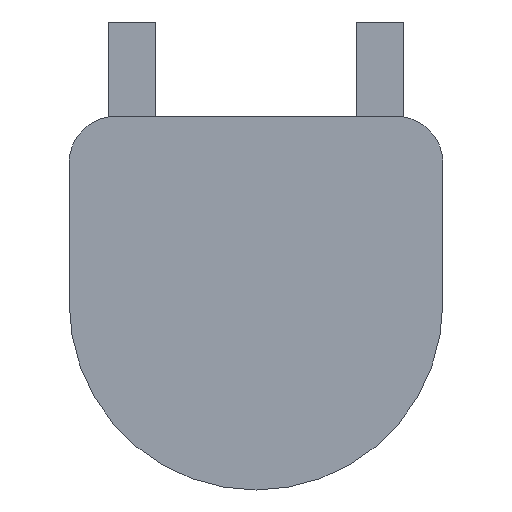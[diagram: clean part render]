
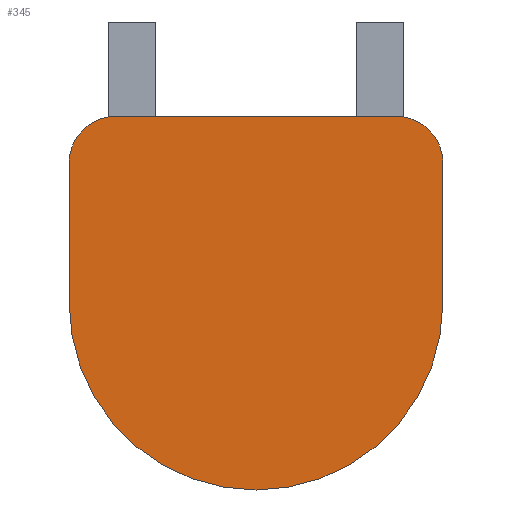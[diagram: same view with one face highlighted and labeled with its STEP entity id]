
A CAD part, front view. The second image highlights one B-rep face of the part: STEP entity #345.
In plain terms, the highlighted planar face has unit normal (0, -1, 0).
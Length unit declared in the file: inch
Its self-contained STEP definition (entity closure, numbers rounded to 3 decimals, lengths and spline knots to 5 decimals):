
#11 = AXIS2_PLACEMENT_3D ( 'NONE', #409, #199, #360 ) ;
#14 = ORIENTED_EDGE ( 'NONE', *, *, #575, .F. ) ;
#21 = CARTESIAN_POINT ( 'NONE',  ( 0., 0., 1. ) ) ;
#36 = CIRCLE ( 'NONE', #84, 0.25 ) ;
#43 = EDGE_CURVE ( 'NONE', #553, #188, #36, .T. ) ;
#44 = ORIENTED_EDGE ( 'NONE', *, *, #209, .F. ) ;
#45 = VERTEX_POINT ( 'NONE', #540 ) ;
#49 = VERTEX_POINT ( 'NONE', #408 ) ;
#68 = LINE ( 'NONE', #21, #488 ) ;
#73 = LINE ( 'NONE', #272, #388 ) ;
#76 = DIRECTION ( 'NONE',  ( 0., 0., 1. ) ) ;
#84 = AXIS2_PLACEMENT_3D ( 'NONE', #629, #241, #190 ) ;
#94 = CARTESIAN_POINT ( 'NONE',  ( -1., 0., 0.75 ) ) ;
#98 = VERTEX_POINT ( 'NONE', #505 ) ;
#118 = DIRECTION ( 'NONE',  ( 0., 0., 1. ) ) ;
#138 = ORIENTED_EDGE ( 'NONE', *, *, #43, .F. ) ;
#163 = EDGE_CURVE ( 'NONE', #98, #440, #496, .T. ) ;
#164 = DIRECTION ( 'NONE',  ( 1., 0., 0. ) ) ;
#188 = VERTEX_POINT ( 'NONE', #216 ) ;
#190 = DIRECTION ( 'NONE',  ( 0., 0., 1. ) ) ;
#199 = DIRECTION ( 'NONE',  ( 0., 1., 0. ) ) ;
#209 = EDGE_CURVE ( 'NONE', #45, #432, #574, .T. ) ;
#216 = CARTESIAN_POINT ( 'NONE',  ( -0.75, 0., 1. ) ) ;
#230 = AXIS2_PLACEMENT_3D ( 'NONE', #279, #567, #118 ) ;
#241 = DIRECTION ( 'NONE',  ( 0., 1., 0. ) ) ;
#244 = EDGE_LOOP ( 'NONE', ( #14, #299, #583, #352, #138, #473, #44 ) ) ;
#265 = EDGE_CURVE ( 'NONE', #432, #553, #384, .T. ) ;
#272 = CARTESIAN_POINT ( 'NONE',  ( 1., 0., 0. ) ) ;
#279 = CARTESIAN_POINT ( 'NONE',  ( 0., 0., 0. ) ) ;
#285 = CARTESIAN_POINT ( 'NONE',  ( -1., 0., 0. ) ) ;
#299 = ORIENTED_EDGE ( 'NONE', *, *, #373, .F. ) ;
#334 = CARTESIAN_POINT ( 'NONE',  ( -1., 0., 0. ) ) ;
#338 = AXIS2_PLACEMENT_3D ( 'NONE', #422, #621, #470 ) ;
#345 = ADVANCED_FACE ( 'NONE', ( #522 ), #418, .F. ) ;
#352 = ORIENTED_EDGE ( 'NONE', *, *, #599, .F. ) ;
#360 = DIRECTION ( 'NONE',  ( 0., 0., 1. ) ) ;
#371 = DIRECTION ( 'NONE',  ( 0., 1., 0. ) ) ;
#373 = EDGE_CURVE ( 'NONE', #440, #49, #73, .T. ) ;
#384 = LINE ( 'NONE', #285, #475 ) ;
#388 = VECTOR ( 'NONE', #557, 39.37008 ) ;
#408 = CARTESIAN_POINT ( 'NONE',  ( 1., 0., 0. ) ) ;
#409 = CARTESIAN_POINT ( 'NONE',  ( 0., 0., 0. ) ) ;
#418 = PLANE ( 'NONE',  #433 ) ;
#422 = CARTESIAN_POINT ( 'NONE',  ( 0.75, 0., 0.75 ) ) ;
#432 = VERTEX_POINT ( 'NONE', #334 ) ;
#433 = AXIS2_PLACEMENT_3D ( 'NONE', #615, #371, #568 ) ;
#440 = VERTEX_POINT ( 'NONE', #478 ) ;
#470 = DIRECTION ( 'NONE',  ( 0., 0., 1. ) ) ;
#473 = ORIENTED_EDGE ( 'NONE', *, *, #265, .F. ) ;
#475 = VECTOR ( 'NONE', #76, 39.37008 ) ;
#478 = CARTESIAN_POINT ( 'NONE',  ( 1., 0., 0.75 ) ) ;
#488 = VECTOR ( 'NONE', #164, 39.37008 ) ;
#496 = CIRCLE ( 'NONE', #338, 0.25 ) ;
#504 = CIRCLE ( 'NONE', #230, 1. ) ;
#505 = CARTESIAN_POINT ( 'NONE',  ( 0.75, 0., 1. ) ) ;
#522 = FACE_OUTER_BOUND ( 'NONE', #244, .T. ) ;
#540 = CARTESIAN_POINT ( 'NONE',  ( 0., 0., -1. ) ) ;
#553 = VERTEX_POINT ( 'NONE', #94 ) ;
#557 = DIRECTION ( 'NONE',  ( 0., 0., -1. ) ) ;
#567 = DIRECTION ( 'NONE',  ( 0., 1., 0. ) ) ;
#568 = DIRECTION ( 'NONE',  ( 0., 0., 1. ) ) ;
#574 = CIRCLE ( 'NONE', #11, 1. ) ;
#575 = EDGE_CURVE ( 'NONE', #49, #45, #504, .T. ) ;
#583 = ORIENTED_EDGE ( 'NONE', *, *, #163, .F. ) ;
#599 = EDGE_CURVE ( 'NONE', #188, #98, #68, .T. ) ;
#615 = CARTESIAN_POINT ( 'NONE',  ( 0., 0., 0. ) ) ;
#621 = DIRECTION ( 'NONE',  ( 0., 1., 0. ) ) ;
#629 = CARTESIAN_POINT ( 'NONE',  ( -0.75, 0., 0.75 ) ) ;
